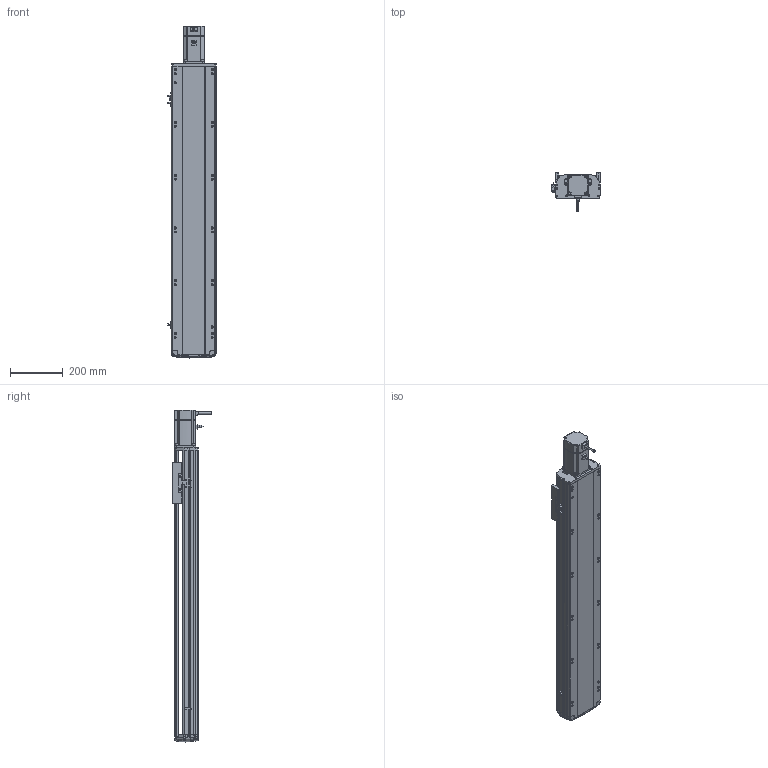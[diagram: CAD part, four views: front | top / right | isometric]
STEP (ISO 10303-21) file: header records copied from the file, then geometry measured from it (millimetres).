
FILE_DESCRIPTION (( 'STEP AP214' ), '1' );
FILE_NAME ('RTH17-XX-850-E-M75-C4.STEP', '2025-10-24T09:39:36', ( '' ), ( '' ), 'SwSTEP 2.0', 'SolidWorks 2018', '' );
FILE_SCHEMA (( 'AUTOMOTIVE_DESIGN' ));
Length unit declared in the file: millimetre
Products named in the file (9): N_RTH17-E-004丝杆螺母连接座^RTH17-XX-XX-E-M75-C4（方程式）; RTH17-XX-850-E-M75-C4; N_OMRON EE-SX672 換覜ん^RTH17-XX-XX-E-M75-C4ㄗ源最宒ㄘ; N_RTH17-E-011底座^RTH17-XX-XX-E-M75-C4（方程式）; N_RTH-L-012 感应片(外置)^RTH17-XX-XX-E-M75-C4（方程式）; N_RTH17-E-008-P75电机板^RTH17-XX-XX-E-M75-C4（方程式）; N_M75^RTH17-XX-XX-E-M75-C4（方程式）; N_RTH17-E-007上盖^RTH17-XX-XX-E-M75-C4（方程式）; N_RTH17-GY-001P^RTH17-XX-XX-E-M75-C4（方程式）
Assembly tree (10 placements, depth 2):
  RTH17-XX-850-E-M75-C4
    N_RTH17-E-011底座^RTH17-XX-XX-E-M75-C4（方程式）
    N_RTH17-E-007上盖^RTH17-XX-XX-E-M75-C4（方程式）
    N_M75^RTH17-XX-XX-E-M75-C4（方程式）
    N_RTH17-E-008-P75电机板^RTH17-XX-XX-E-M75-C4（方程式）
    N_OMRON EE-SX672 換覜ん^RTH17-XX-XX-E-M75-C4ㄗ源最宒ㄘ  x3
    N_RTH-L-012 感应片(外置)^RTH17-XX-XX-E-M75-C4（方程式）
    N_RTH17-E-004丝杆螺母连接座^RTH17-XX-XX-E-M75-C4（方程式）
    N_RTH17-GY-001P^RTH17-XX-XX-E-M75-C4（方程式）
Bounding box: 183.5 x 145.7 x 1258.19 mm (x, y, z)
Volume: 9216844.4 mm3; surface area: 1203604.8 mm2
Topology: 9 solids, 11 shells, 1780 faces, 4929 edges, 3194 vertices
Faces by surface type: plane 824, cylinder 542, bspline 377, cone 28, torus 9
Entity records: 52534 total; most frequent: CARTESIAN_POINT 20663, ORIENTED_EDGE 6882, DIRECTION 5777, EDGE_CURVE 3445, VERTEX_POINT 2230, AXIS2_PLACEMENT_3D 1967, VECTOR 1843, LINE 1843
